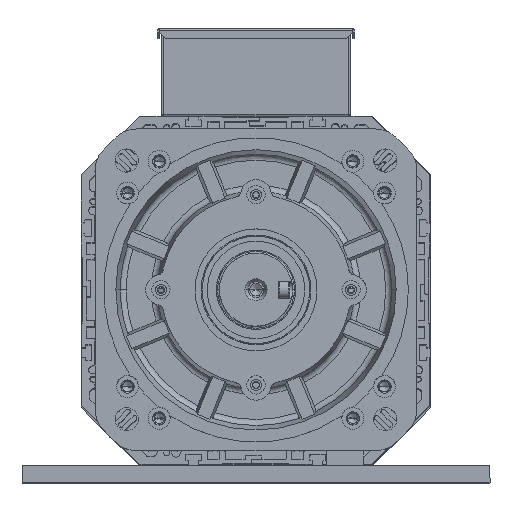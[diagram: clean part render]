
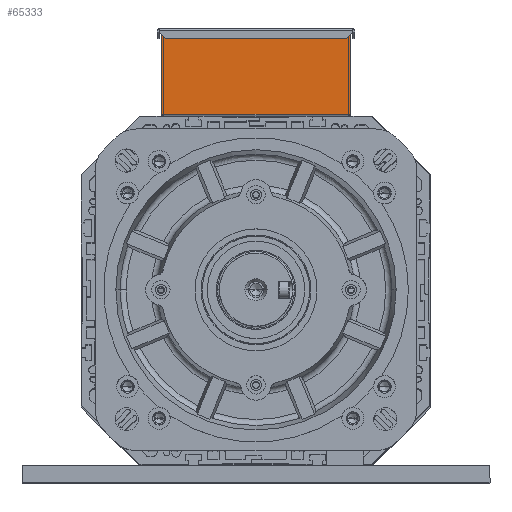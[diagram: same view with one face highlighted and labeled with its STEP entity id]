
A CAD part, top view. The second image highlights one B-rep face of the part: STEP entity #65333.
In plain terms, the highlighted planar face has unit normal (0, 0, 1) as drawn and (1, 0, 0) by its records, which use the part's own axes.
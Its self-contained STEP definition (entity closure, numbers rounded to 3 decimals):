
#869 = VECTOR ( 'NONE', #47318, 1000. ) ;
#6981 = EDGE_CURVE ( 'NONE', #96669, #28907, #47194, .T. ) ;
#8037 = LINE ( 'NONE', #97250, #47639 ) ;
#15040 = EDGE_CURVE ( 'NONE', #28907, #97294, #78162, .T. ) ;
#16875 = DIRECTION ( 'NONE',  ( 0., -1., 0. ) ) ;
#21121 = DIRECTION ( 'NONE',  ( 0., 0., 1. ) ) ;
#21313 = DIRECTION ( 'NONE',  ( 0., -1., 0. ) ) ;
#21410 = CARTESIAN_POINT ( 'NONE',  ( 100., -77.5, 0.2 ) ) ;
#26429 = EDGE_CURVE ( 'NONE', #96669, #32202, #92827, .T. ) ;
#28907 = VERTEX_POINT ( 'NONE', #51957 ) ;
#29945 = DIRECTION ( 'NONE',  ( 0., 0., -1. ) ) ;
#32202 = VERTEX_POINT ( 'NONE', #69678 ) ;
#32450 = VERTEX_POINT ( 'NONE', #57054 ) ;
#34185 = ORIENTED_EDGE ( 'NONE', *, *, #37051, .F. ) ;
#36144 = DIRECTION ( 'NONE',  ( 0., -1., 0. ) ) ;
#37051 = EDGE_CURVE ( 'NONE', #32450, #50538, #98276, .T. ) ;
#39261 = CARTESIAN_POINT ( 'NONE',  ( 100., -77.5, 65.8 ) ) ;
#40565 = ORIENTED_EDGE ( 'NONE', *, *, #26429, .F. ) ;
#43670 = ORIENTED_EDGE ( 'NONE', *, *, #62803, .T. ) ;
#45145 = CARTESIAN_POINT ( 'NONE',  ( 100., 77.5, 0. ) ) ;
#45328 = CARTESIAN_POINT ( 'NONE',  ( 100., -77.5, 0.2 ) ) ;
#45863 = DIRECTION ( 'NONE',  ( -1., 0., 0. ) ) ;
#47194 = LINE ( 'NONE', #45145, #47454 ) ;
#47318 = DIRECTION ( 'NONE',  ( 0., -1., 0. ) ) ;
#47397 = DIRECTION ( 'NONE',  ( 0., 0., 1. ) ) ;
#47454 = VECTOR ( 'NONE', #21121, 1000. ) ;
#47639 = VECTOR ( 'NONE', #16875, 1000. ) ;
#50538 = VERTEX_POINT ( 'NONE', #21410 ) ;
#51957 = CARTESIAN_POINT ( 'NONE',  ( 100., 77.5, 65.8 ) ) ;
#57054 = CARTESIAN_POINT ( 'NONE',  ( 100., -75.8, 0.2 ) ) ;
#61635 = VECTOR ( 'NONE', #21313, 1000. ) ;
#62803 = EDGE_CURVE ( 'NONE', #97294, #50538, #69680, .T. ) ;
#65333 = ADVANCED_FACE ( 'NONE', ( #69381 ), #71447, .F. ) ;
#65770 = ORIENTED_EDGE ( 'NONE', *, *, #6981, .T. ) ;
#68889 = ORIENTED_EDGE ( 'NONE', *, *, #15040, .T. ) ;
#69066 = AXIS2_PLACEMENT_3D ( 'NONE', #101217, #45863, #47397 ) ;
#69381 = FACE_OUTER_BOUND ( 'NONE', #80937, .T. ) ;
#69678 = CARTESIAN_POINT ( 'NONE',  ( 100., 75.8, 0.2 ) ) ;
#69680 = LINE ( 'NONE', #101484, #72039 ) ;
#71447 = PLANE ( 'NONE',  #69066 ) ;
#72039 = VECTOR ( 'NONE', #29945, 1000. ) ;
#78162 = LINE ( 'NONE', #79700, #869 ) ;
#79700 = CARTESIAN_POINT ( 'NONE',  ( 100., 77.5, 65.8 ) ) ;
#80937 = EDGE_LOOP ( 'NONE', ( #68889, #43670, #34185, #91008, #40565, #65770 ) ) ;
#83150 = CARTESIAN_POINT ( 'NONE',  ( 100., -77.5, 0.2 ) ) ;
#86938 = EDGE_CURVE ( 'NONE', #32202, #32450, #8037, .T. ) ;
#90537 = VECTOR ( 'NONE', #36144, 1000. ) ;
#91008 = ORIENTED_EDGE ( 'NONE', *, *, #86938, .F. ) ;
#92827 = LINE ( 'NONE', #45328, #61635 ) ;
#94859 = CARTESIAN_POINT ( 'NONE',  ( 100., 77.5, 0.2 ) ) ;
#96669 = VERTEX_POINT ( 'NONE', #94859 ) ;
#97250 = CARTESIAN_POINT ( 'NONE',  ( 100., -77.5, 0.2 ) ) ;
#97294 = VERTEX_POINT ( 'NONE', #39261 ) ;
#98276 = LINE ( 'NONE', #83150, #90537 ) ;
#101217 = CARTESIAN_POINT ( 'NONE',  ( 100., 0., 0. ) ) ;
#101484 = CARTESIAN_POINT ( 'NONE',  ( 100., -77.5, 0. ) ) ;
